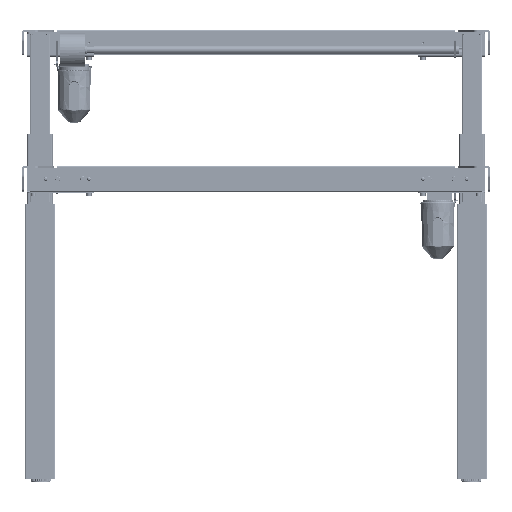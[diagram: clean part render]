
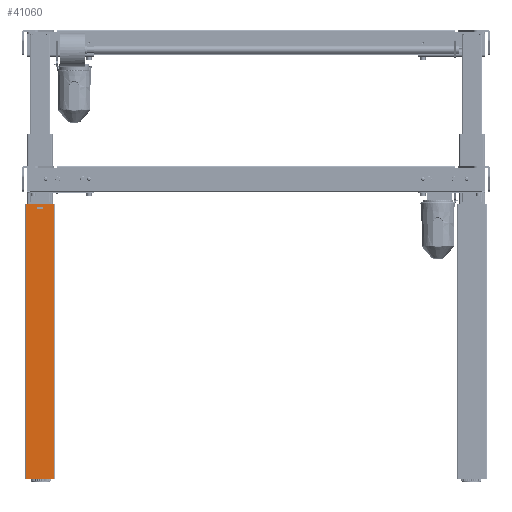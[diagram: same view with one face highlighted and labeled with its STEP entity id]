
A CAD part, front view. The second image highlights one B-rep face of the part: STEP entity #41060.
In plain terms, the highlighted planar face has unit normal (0, -1, 0) as drawn and (0, 1, 0) by its records, which use the part's own axes.
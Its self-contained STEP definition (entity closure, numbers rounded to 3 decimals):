
#360 = VECTOR ( 'NONE', #84460, 1000. ) ;
#2112 = VECTOR ( 'NONE', #18589, 1000. ) ;
#2551 = VERTEX_POINT ( 'NONE', #103144 ) ;
#2882 = ORIENTED_EDGE ( 'NONE', *, *, #34573, .F. ) ;
#3395 = LINE ( 'NONE', #67323, #34802 ) ;
#3457 = AXIS2_PLACEMENT_3D ( 'NONE', #40140, #72563, #24275 ) ;
#4136 = CARTESIAN_POINT ( 'NONE',  ( -27., 40., 545. ) ) ;
#4310 = CARTESIAN_POINT ( 'NONE',  ( 6., 40., 10. ) ) ;
#4453 = DIRECTION ( 'NONE',  ( 0., 0., -1. ) ) ;
#9102 = EDGE_CURVE ( 'NONE', #11659, #85710, #53439, .T. ) ;
#11659 = VERTEX_POINT ( 'NONE', #41941 ) ;
#12676 = CARTESIAN_POINT ( 'NONE',  ( 6., 40., 6. ) ) ;
#12888 = DIRECTION ( 'NONE',  ( -1., 0., 0. ) ) ;
#12922 = EDGE_CURVE ( 'NONE', #28108, #2551, #76281, .T. ) ;
#15451 = ORIENTED_EDGE ( 'NONE', *, *, #21797, .F. ) ;
#18589 = DIRECTION ( 'NONE',  ( -1., 0., 0. ) ) ;
#20035 = ORIENTED_EDGE ( 'NONE', *, *, #9102, .T. ) ;
#21797 = EDGE_CURVE ( 'NONE', #2551, #69689, #3395, .T. ) ;
#22764 = EDGE_CURVE ( 'NONE', #81571, #85710, #42315, .T. ) ;
#24275 = DIRECTION ( 'NONE',  ( 0., 0., -1. ) ) ;
#24651 = VECTOR ( 'NONE', #4453, 1000. ) ;
#28108 = VERTEX_POINT ( 'NONE', #12676 ) ;
#31235 = ORIENTED_EDGE ( 'NONE', *, *, #88088, .T. ) ;
#33812 = FACE_OUTER_BOUND ( 'NONE', #80365, .T. ) ;
#34467 = ORIENTED_EDGE ( 'NONE', *, *, #104297, .F. ) ;
#34573 = EDGE_CURVE ( 'NONE', #69689, #37300, #40269, .T. ) ;
#34802 = VECTOR ( 'NONE', #35254, 1000. ) ;
#35254 = DIRECTION ( 'NONE',  ( 0., 0., 1. ) ) ;
#36813 = EDGE_LOOP ( 'NONE', ( #15451, #72960, #46414, #2882 ) ) ;
#37300 = VERTEX_POINT ( 'NONE', #83214 ) ;
#40140 = CARTESIAN_POINT ( 'NONE',  ( -27., 40., 545. ) ) ;
#40269 = LINE ( 'NONE', #4310, #46520 ) ;
#41060 = ADVANCED_FACE ( 'NONE', ( #64098, #33812 ), #88354, .F. ) ;
#41941 = CARTESIAN_POINT ( 'NONE',  ( 27., 40., 0. ) ) ;
#42315 = LINE ( 'NONE', #4136, #24651 ) ;
#43566 = CARTESIAN_POINT ( 'NONE',  ( -27., 40., 545. ) ) ;
#44871 = CARTESIAN_POINT ( 'NONE',  ( -27., 40., 545. ) ) ;
#45618 = CARTESIAN_POINT ( 'NONE',  ( 6., 40., 6. ) ) ;
#46414 = ORIENTED_EDGE ( 'NONE', *, *, #76186, .F. ) ;
#46520 = VECTOR ( 'NONE', #70083, 1000. ) ;
#50787 = CARTESIAN_POINT ( 'NONE',  ( -6., 40., 10. ) ) ;
#52083 = CARTESIAN_POINT ( 'NONE',  ( 27., 40., 545. ) ) ;
#53439 = LINE ( 'NONE', #80625, #92491 ) ;
#53702 = DIRECTION ( 'NONE',  ( 0., 0., -1. ) ) ;
#57599 = ORIENTED_EDGE ( 'NONE', *, *, #22764, .F. ) ;
#64098 = FACE_BOUND ( 'NONE', #36813, .T. ) ;
#67323 = CARTESIAN_POINT ( 'NONE',  ( -6., 40., 6. ) ) ;
#69689 = VERTEX_POINT ( 'NONE', #50787 ) ;
#70039 = LINE ( 'NONE', #43566, #2112 ) ;
#70083 = DIRECTION ( 'NONE',  ( 1., 0., 0. ) ) ;
#72518 = LINE ( 'NONE', #45618, #92625 ) ;
#72563 = DIRECTION ( 'NONE',  ( 0., -1., 0. ) ) ;
#72960 = ORIENTED_EDGE ( 'NONE', *, *, #12922, .F. ) ;
#76186 = EDGE_CURVE ( 'NONE', #37300, #28108, #72518, .T. ) ;
#76281 = LINE ( 'NONE', #100501, #88899 ) ;
#79745 = LINE ( 'NONE', #52083, #360 ) ;
#80274 = CARTESIAN_POINT ( 'NONE',  ( 27., 40., 545. ) ) ;
#80276 = DIRECTION ( 'NONE',  ( -1., 0., 0. ) ) ;
#80365 = EDGE_LOOP ( 'NONE', ( #20035, #57599, #34467, #31235 ) ) ;
#80625 = CARTESIAN_POINT ( 'NONE',  ( -27., 40., 0. ) ) ;
#81571 = VERTEX_POINT ( 'NONE', #44871 ) ;
#83214 = CARTESIAN_POINT ( 'NONE',  ( 6., 40., 10. ) ) ;
#84460 = DIRECTION ( 'NONE',  ( 0., 0., -1. ) ) ;
#85710 = VERTEX_POINT ( 'NONE', #86299 ) ;
#86299 = CARTESIAN_POINT ( 'NONE',  ( -27., 40., 0. ) ) ;
#88088 = EDGE_CURVE ( 'NONE', #94960, #11659, #79745, .T. ) ;
#88354 = PLANE ( 'NONE',  #3457 ) ;
#88899 = VECTOR ( 'NONE', #12888, 1000. ) ;
#92491 = VECTOR ( 'NONE', #80276, 1000. ) ;
#92625 = VECTOR ( 'NONE', #53702, 1000. ) ;
#94960 = VERTEX_POINT ( 'NONE', #80274 ) ;
#100501 = CARTESIAN_POINT ( 'NONE',  ( 6., 40., 6. ) ) ;
#103144 = CARTESIAN_POINT ( 'NONE',  ( -6., 40., 6. ) ) ;
#104297 = EDGE_CURVE ( 'NONE', #94960, #81571, #70039, .T. ) ;
